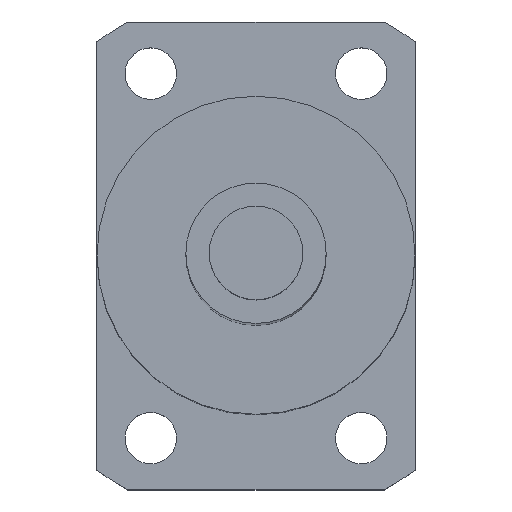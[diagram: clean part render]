
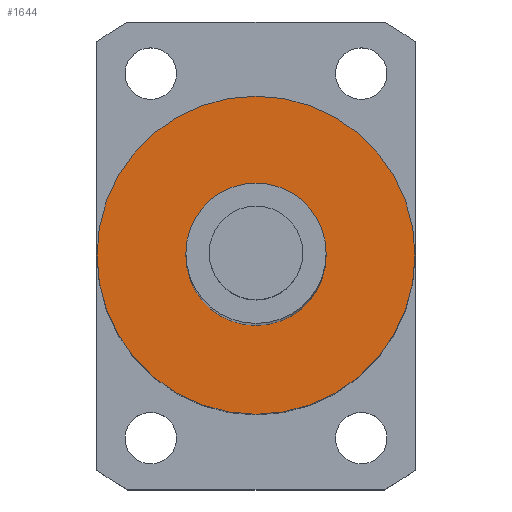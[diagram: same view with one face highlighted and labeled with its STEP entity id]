
A CAD part, top view. The second image highlights one B-rep face of the part: STEP entity #1644.
In plain terms, the highlighted planar face has unit normal (0, 0, 1).
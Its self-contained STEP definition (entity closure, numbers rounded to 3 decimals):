
#512=CARTESIAN_POINT('',(0.,0.,232.5));
#513=DIRECTION('',(0.,0.,1.));
#514=DIRECTION('',(1.,0.,0.));
#515=AXIS2_PLACEMENT_3D('',#512,#513,#514);
#517=CARTESIAN_POINT('',(0.,0.,232.5));
#518=DIRECTION('',(0.,0.,1.));
#519=DIRECTION('',(-1.,0.,0.));
#520=AXIS2_PLACEMENT_3D('',#517,#518,#519);
#522=CARTESIAN_POINT('',(0.,0.,232.5));
#523=DIRECTION('',(0.,0.,1.));
#524=DIRECTION('',(1.,0.,0.));
#525=AXIS2_PLACEMENT_3D('',#522,#523,#524);
#527=CARTESIAN_POINT('',(0.,0.,232.5));
#528=DIRECTION('',(0.,0.,1.));
#529=DIRECTION('',(-1.,0.,0.));
#530=AXIS2_PLACEMENT_3D('',#527,#528,#529);
#757=CARTESIAN_POINT('',(17.,0.,232.5));
#758=CARTESIAN_POINT('',(-17.,0.,232.5));
#759=VERTEX_POINT('',#757);
#760=VERTEX_POINT('',#758);
#769=CARTESIAN_POINT('',(7.5,0.,232.5));
#770=CARTESIAN_POINT('',(-7.5,0.,232.5));
#771=VERTEX_POINT('',#769);
#772=VERTEX_POINT('',#770);
#1629=CARTESIAN_POINT('',(0.,0.,232.5));
#1630=DIRECTION('',(0.,0.,1.));
#1631=DIRECTION('',(1.,0.,0.));
#1632=AXIS2_PLACEMENT_3D('',#1629,#1630,#1631);
#1633=PLANE('',#1632);
#1634=ORIENTED_EDGE('',*,*,#1609,.F.);
#1635=ORIENTED_EDGE('',*,*,#1623,.F.);
#1636=EDGE_LOOP('',(#1634,#1635));
#1637=FACE_OUTER_BOUND('',#1636,.F.);
#1639=ORIENTED_EDGE('',*,*,#1638,.T.);
#1641=ORIENTED_EDGE('',*,*,#1640,.T.);
#1642=EDGE_LOOP('',(#1639,#1641));
#1643=FACE_BOUND('',#1642,.F.);
#1644=ADVANCED_FACE('',(#1637,#1643),#1633,.T.);
#516=CIRCLE('',#515,17.);
#521=CIRCLE('',#520,17.);
#526=CIRCLE('',#525,7.5);
#531=CIRCLE('',#530,7.5);
#1609=EDGE_CURVE('',#759,#760,#516,.T.);
#1623=EDGE_CURVE('',#760,#759,#521,.T.);
#1638=EDGE_CURVE('',#771,#772,#526,.T.);
#1640=EDGE_CURVE('',#772,#771,#531,.T.);
